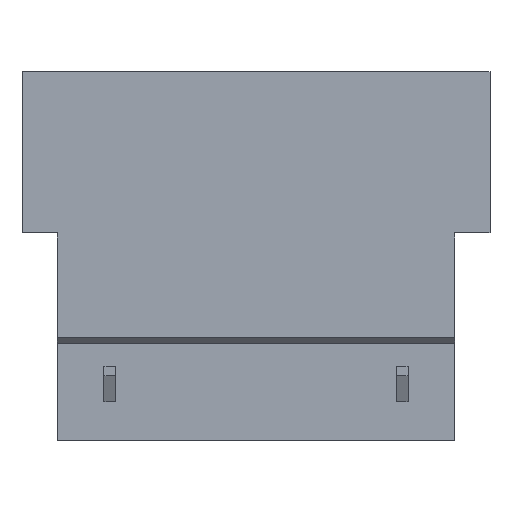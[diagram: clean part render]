
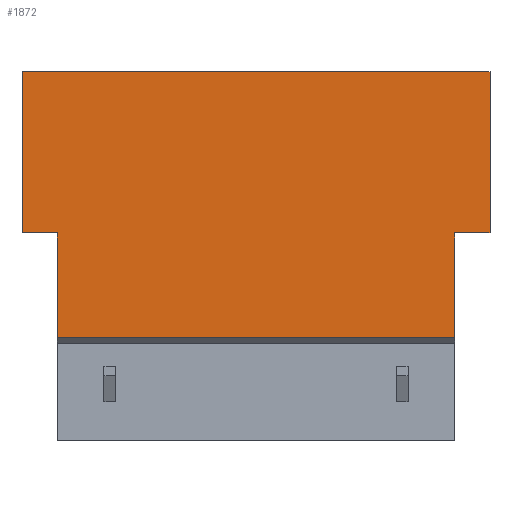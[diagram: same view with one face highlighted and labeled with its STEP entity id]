
A CAD part, front view. The second image highlights one B-rep face of the part: STEP entity #1872.
In plain terms, the highlighted planar face has unit normal (0, -1, 0).
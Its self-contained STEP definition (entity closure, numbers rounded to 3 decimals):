
#115 = ORIENTED_EDGE ( 'NONE', *, *, #3477, .T. ) ;
#269 = DIRECTION ( 'NONE',  ( 0., 0., -1. ) ) ;
#273 = EDGE_CURVE ( 'NONE', #3099, #4933, #4890, .T. ) ;
#364 = DIRECTION ( 'NONE',  ( 1., 0., 0. ) ) ;
#531 = VERTEX_POINT ( 'NONE', #1855 ) ;
#536 = DIRECTION ( 'NONE',  ( 1., 0., 0. ) ) ;
#538 = ORIENTED_EDGE ( 'NONE', *, *, #4878, .F. ) ;
#645 = ORIENTED_EDGE ( 'NONE', *, *, #7455, .T. ) ;
#672 = VECTOR ( 'NONE', #269, 1000. ) ;
#934 = EDGE_CURVE ( 'NONE', #2363, #997, #1118, .T. ) ;
#967 = LINE ( 'NONE', #3220, #6939 ) ;
#975 = CARTESIAN_POINT ( 'NONE',  ( -7.837, -2.811, -4.43 ) ) ;
#988 = ORIENTED_EDGE ( 'NONE', *, *, #1222, .F. ) ;
#997 = VERTEX_POINT ( 'NONE', #5795 ) ;
#1007 = CARTESIAN_POINT ( 'NONE',  ( -9.737, -2.811, 10. ) ) ;
#1118 = LINE ( 'NONE', #5605, #6515 ) ;
#1121 = EDGE_CURVE ( 'NONE', #6221, #3099, #4408, .T. ) ;
#1222 = EDGE_CURVE ( 'NONE', #5571, #4933, #5666, .T. ) ;
#1463 = LINE ( 'NONE', #2434, #6306 ) ;
#1855 = CARTESIAN_POINT ( 'NONE',  ( -9.737, -2.811, 1.25 ) ) ;
#1872 = ADVANCED_FACE ( 'NONE', ( #3421 ), #3341, .F. ) ;
#1887 = CARTESIAN_POINT ( 'NONE',  ( 15.663, -2.811, 1.25 ) ) ;
#2363 = VERTEX_POINT ( 'NONE', #2420 ) ;
#2420 = CARTESIAN_POINT ( 'NONE',  ( 15.663, -2.811, 10. ) ) ;
#2434 = CARTESIAN_POINT ( 'NONE',  ( -9.737, -2.811, 10. ) ) ;
#2652 = DIRECTION ( 'NONE',  ( 1., 0., 0. ) ) ;
#3060 = ORIENTED_EDGE ( 'NONE', *, *, #273, .T. ) ;
#3099 = VERTEX_POINT ( 'NONE', #975 ) ;
#3216 = CARTESIAN_POINT ( 'NONE',  ( -7.837, -2.811, -10. ) ) ;
#3220 = CARTESIAN_POINT ( 'NONE',  ( -9.737, -2.811, 10. ) ) ;
#3281 = EDGE_CURVE ( 'NONE', #6811, #2363, #1463, .T. ) ;
#3303 = DIRECTION ( 'NONE',  ( 0., 0., -1. ) ) ;
#3341 = PLANE ( 'NONE',  #5182 ) ;
#3349 = VECTOR ( 'NONE', #364, 1000. ) ;
#3421 = FACE_OUTER_BOUND ( 'NONE', #5042, .T. ) ;
#3449 = LINE ( 'NONE', #5789, #7534 ) ;
#3470 = CARTESIAN_POINT ( 'NONE',  ( -9.737, -2.811, 10. ) ) ;
#3477 = EDGE_CURVE ( 'NONE', #531, #6221, #3449, .T. ) ;
#3509 = VECTOR ( 'NONE', #4766, 1000. ) ;
#3756 = ORIENTED_EDGE ( 'NONE', *, *, #934, .F. ) ;
#4408 = LINE ( 'NONE', #3216, #672 ) ;
#4565 = DIRECTION ( 'NONE',  ( 0., 1., 0. ) ) ;
#4766 = DIRECTION ( 'NONE',  ( -1., 0., 0. ) ) ;
#4813 = VECTOR ( 'NONE', #5634, 1000. ) ;
#4878 = EDGE_CURVE ( 'NONE', #997, #5571, #5416, .T. ) ;
#4890 = LINE ( 'NONE', #5031, #3349 ) ;
#4896 = ORIENTED_EDGE ( 'NONE', *, *, #3281, .F. ) ;
#4933 = VERTEX_POINT ( 'NONE', #6719 ) ;
#5031 = CARTESIAN_POINT ( 'NONE',  ( -9.737, -2.811, -4.43 ) ) ;
#5042 = EDGE_LOOP ( 'NONE', ( #3060, #988, #538, #3756, #4896, #645, #115, #6228 ) ) ;
#5182 = AXIS2_PLACEMENT_3D ( 'NONE', #1007, #4565, #6293 ) ;
#5416 = LINE ( 'NONE', #1887, #3509 ) ;
#5571 = VERTEX_POINT ( 'NONE', #6310 ) ;
#5605 = CARTESIAN_POINT ( 'NONE',  ( 15.663, -2.811, 10. ) ) ;
#5634 = DIRECTION ( 'NONE',  ( 0., 0., -1. ) ) ;
#5666 = LINE ( 'NONE', #7363, #4813 ) ;
#5789 = CARTESIAN_POINT ( 'NONE',  ( -9.737, -2.811, 1.25 ) ) ;
#5795 = CARTESIAN_POINT ( 'NONE',  ( 15.663, -2.811, 1.25 ) ) ;
#6221 = VERTEX_POINT ( 'NONE', #6603 ) ;
#6228 = ORIENTED_EDGE ( 'NONE', *, *, #1121, .T. ) ;
#6293 = DIRECTION ( 'NONE',  ( 1., 0., 0. ) ) ;
#6306 = VECTOR ( 'NONE', #2652, 1000. ) ;
#6310 = CARTESIAN_POINT ( 'NONE',  ( 13.763, -2.811, 1.25 ) ) ;
#6515 = VECTOR ( 'NONE', #7138, 1000. ) ;
#6603 = CARTESIAN_POINT ( 'NONE',  ( -7.837, -2.811, 1.25 ) ) ;
#6719 = CARTESIAN_POINT ( 'NONE',  ( 13.763, -2.811, -4.43 ) ) ;
#6811 = VERTEX_POINT ( 'NONE', #3470 ) ;
#6939 = VECTOR ( 'NONE', #3303, 1000. ) ;
#7138 = DIRECTION ( 'NONE',  ( 0., 0., -1. ) ) ;
#7363 = CARTESIAN_POINT ( 'NONE',  ( 13.763, -2.811, -10. ) ) ;
#7455 = EDGE_CURVE ( 'NONE', #6811, #531, #967, .T. ) ;
#7534 = VECTOR ( 'NONE', #536, 1000. ) ;
